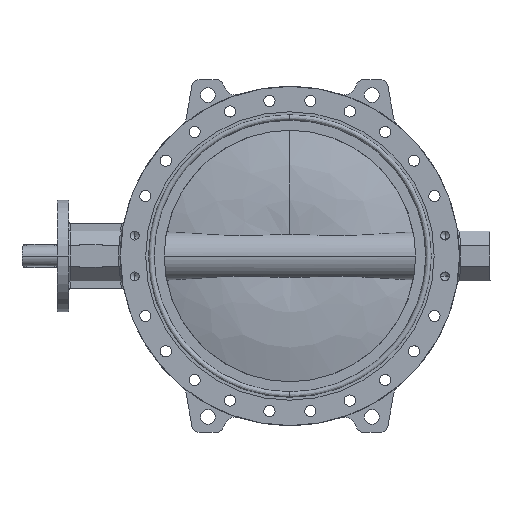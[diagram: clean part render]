
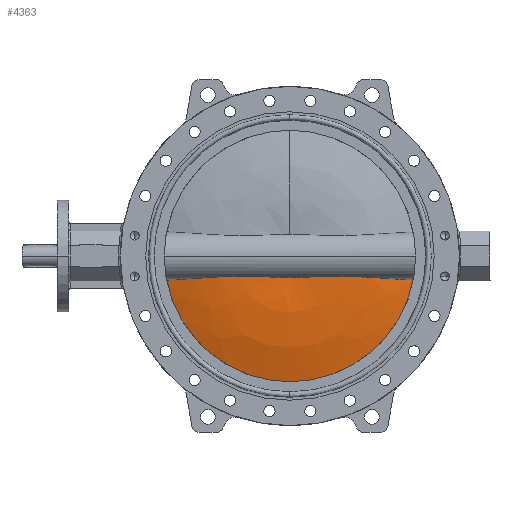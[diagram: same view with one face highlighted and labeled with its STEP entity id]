
A CAD part, left-side view. The second image highlights one B-rep face of the part: STEP entity #4363.
In plain terms, the highlighted free-form (B-spline) face has degree [3, 3] with [4, 4] control points.
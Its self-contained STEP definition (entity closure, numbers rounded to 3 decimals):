
#746 = CARTESIAN_POINT ( 'NONE',  ( 54.613, -112.392, -35.249 ) ) ;
#803 = CARTESIAN_POINT ( 'NONE',  ( 55.577, 75.7, -33.71 ) ) ;
#864 = CARTESIAN_POINT ( 'NONE',  ( 55.295, -174.815, -34.171 ) ) ;
#914 = CARTESIAN_POINT ( 'NONE',  ( 57.647, 2.232, -30.03 ) ) ;
#1086 = CARTESIAN_POINT ( 'NONE',  ( 61.865, 276.618, -20.23 ) ) ;
#1146 = DIRECTION ( 'NONE',  ( 0., 0., -1. ) ) ;
#1151 = CARTESIAN_POINT ( 'NONE',  ( 89.424, 40.497, -29.762 ) ) ;
#2022 = CARTESIAN_POINT ( 'NONE',  ( 56.539, -49.895, -32.071 ) ) ;
#2084 = CARTESIAN_POINT ( 'NONE',  ( 61.937, -277.642, -20.001 ) ) ;
#2131 = CARTESIAN_POINT ( 'NONE',  ( 64.742, -331.232, -5.781 ) ) ;
#2191 = CARTESIAN_POINT ( 'NONE',  ( 55.833, 68.696, -33.285 ) ) ;
#2372 = CARTESIAN_POINT ( 'NONE',  ( 9.724, 54.672, -29.762 ) ) ;
#2433 = CARTESIAN_POINT ( 'NONE',  ( 26.357, 148.195, -42.304 ) ) ;
#2497 = CARTESIAN_POINT ( 'NONE',  ( 242.448, -109.657, -42.304 ) ) ;
#2533 = CARTESIAN_POINT ( 'NONE',  ( 64.37, 317.612, -9.953 ) ) ;
#2554 = CARTESIAN_POINT ( 'NONE',  ( 26.428, -148.183, -42.304 ) ) ;
#3326 = CARTESIAN_POINT ( 'NONE',  ( 60.917, -264.115, -22.824 ) ) ;
#3388 = CARTESIAN_POINT ( 'NONE',  ( 55.76, -70.712, -33.408 ) ) ;
#3441 = CARTESIAN_POINT ( 'NONE',  ( 64.378, -317.919, -9.858 ) ) ;
#3501 = CARTESIAN_POINT ( 'NONE',  ( 54.469, 131.589, -35.47 ) ) ;
#3735 = CARTESIAN_POINT ( 'NONE',  ( 543.62, -245.873, -5.781 ) ) ;
#3771 = CARTESIAN_POINT ( 'NONE',  ( 55.511, 180.215, -33.822 ) ) ;
#3818 = CARTESIAN_POINT ( 'NONE',  ( 64.742, -331.232, -5.781 ) ) ;
#4363 = ADVANCED_FACE ( 'NONE', ( #9302 ), #13857, .T. ) ;
#4601 = CARTESIAN_POINT ( 'NONE',  ( 58.897, -236.888, -27.622 ) ) ;
#4712 = CARTESIAN_POINT ( 'NONE',  ( 55.126, 89.697, -34.443 ) ) ;
#4769 = CARTESIAN_POINT ( 'NONE',  ( 54.64, 110.665, -35.208 ) ) ;
#4821 = CARTESIAN_POINT ( 'NONE',  ( 56.839, -205.942, -31.537 ) ) ;
#4984 = CARTESIAN_POINT ( 'NONE',  ( 57.793, 221.672, -29.799 ) ) ;
#5101 = CARTESIAN_POINT ( 'NONE',  ( 60.827, 262.915, -23.062 ) ) ;
#5114 = CARTESIAN_POINT ( 'NONE',  ( 242.396, 109.772, -42.304 ) ) ;
#5920 = CARTESIAN_POINT ( 'NONE',  ( 56.254, -195.572, -32.567 ) ) ;
#5977 = CARTESIAN_POINT ( 'NONE',  ( 57.613, -8.215, -30.096 ) ) ;
#6033 = CARTESIAN_POINT ( 'NONE',  ( 54.665, 152.463, -35.167 ) ) ;
#6077 = CARTESIAN_POINT ( 'NONE',  ( 54.855, -160.962, -34.873 ) ) ;
#6134 = EDGE_CURVE ( 'NONE', #10485, #14823, #11003, .T. ) ;
#6194 = CARTESIAN_POINT ( 'NONE',  ( 56.54, 200.965, -32.078 ) ) ;
#6211 = CARTESIAN_POINT ( 'NONE',  ( 9.75, -54.667, -29.762 ) ) ;
#7142 = CARTESIAN_POINT ( 'NONE',  ( 57.093, 33.672, -31.074 ) ) ;
#7357 = CARTESIAN_POINT ( 'NONE',  ( 54.471, -133.224, -35.467 ) ) ;
#7479 = CARTESIAN_POINT ( 'NONE',  ( 89.444, -40.454, -29.762 ) ) ;
#7528 = CARTESIAN_POINT ( 'NONE',  ( 0., 0., -5.781 ) ) ;
#7802 = EDGE_CURVE ( 'NONE', #14823, #10485, #15367, .T. ) ;
#8353 = CARTESIAN_POINT ( 'NONE',  ( 54.526, -119.338, -35.383 ) ) ;
#8409 = CARTESIAN_POINT ( 'NONE',  ( 54.696, -154.032, -35.12 ) ) ;
#8515 = CARTESIAN_POINT ( 'NONE',  ( 55.073, -91.541, -34.527 ) ) ;
#8531 = ORIENTED_EDGE ( 'NONE', *, *, #7802, .T. ) ;
#8565 = CARTESIAN_POINT ( 'NONE',  ( 63.667, -304.544, -13.519 ) ) ;
#8680 = DIRECTION ( 'NONE',  ( 0., 1., 0. ) ) ;
#9302 = FACE_OUTER_BOUND ( 'NONE', #10086, .T. ) ;
#9614 = CARTESIAN_POINT ( 'NONE',  ( 54.887, -98.492, -34.821 ) ) ;
#9723 = CARTESIAN_POINT ( 'NONE',  ( 57.563, 12.696, -30.191 ) ) ;
#9781 = CARTESIAN_POINT ( 'NONE',  ( 56.621, 47.678, -31.926 ) ) ;
#9835 = CARTESIAN_POINT ( 'NONE',  ( 56.636, -202.486, -31.898 ) ) ;
#9887 = CARTESIAN_POINT ( 'NONE',  ( 58.79, 235.442, -27.847 ) ) ;
#9937 = CARTESIAN_POINT ( 'NONE',  ( 64.742, 331.232, -5.781 ) ) ;
#9994 = CARTESIAN_POINT ( 'NONE',  ( 55.239, 173.286, -34.262 ) ) ;
#10086 = EDGE_LOOP ( 'NONE', ( #10564, #8531 ) ) ;
#10485 = VERTEX_POINT ( 'NONE', #11924 ) ;
#10564 = ORIENTED_EDGE ( 'NONE', *, *, #6134, .T. ) ;
#10862 = CARTESIAN_POINT ( 'NONE',  ( 57.509, 16.188, -30.294 ) ) ;
#10920 = CARTESIAN_POINT ( 'NONE',  ( 55.509, -77.652, -33.821 ) ) ;
#11003 = CIRCLE ( 'NONE', #11050, 337.5 ) ;
#11024 = CARTESIAN_POINT ( 'NONE',  ( 54.543, 117.645, -35.356 ) ) ;
#11050 = AXIS2_PLACEMENT_3D ( 'NONE', #7528, #1146, #8680 ) ;
#11136 = CARTESIAN_POINT ( 'NONE',  ( 63.636, 303.967, -13.675 ) ) ;
#11248 = CARTESIAN_POINT ( 'NONE',  ( 56.162, 194.054, -32.73 ) ) ;
#11319 = CARTESIAN_POINT ( 'NONE',  ( 43.074, 242.191, -34.185 ) ) ;
#11377 = CARTESIAN_POINT ( 'NONE',  ( 396.139, 179.397, -34.185 ) ) ;
#11924 = CARTESIAN_POINT ( 'NONE',  ( 64.742, 331.232, -5.781 ) ) ;
#12244 = CARTESIAN_POINT ( 'NONE',  ( 57.526, -15.172, -30.261 ) ) ;
#12292 = CARTESIAN_POINT ( 'NONE',  ( 56.275, -56.833, -32.533 ) ) ;
#12467 = CARTESIAN_POINT ( 'NONE',  ( 396.225, -179.208, -34.185 ) ) ;
#12524 = CARTESIAN_POINT ( 'NONE',  ( 43.19, -242.17, -34.185 ) ) ;
#13384 = CARTESIAN_POINT ( 'NONE',  ( 57.299, 26.672, -30.69 ) ) ;
#13440 = CARTESIAN_POINT ( 'NONE',  ( 57.897, -223.188, -29.598 ) ) ;
#13499 = CARTESIAN_POINT ( 'NONE',  ( 54.931, 96.691, -34.751 ) ) ;
#13544 = CARTESIAN_POINT ( 'NONE',  ( 54.492, 138.553, -35.435 ) ) ;
#13599 = CARTESIAN_POINT ( 'NONE',  ( 56.075, -192.114, -32.874 ) ) ;
#13664 = CARTESIAN_POINT ( 'NONE',  ( 59.256, -332.257, -5.781 ) ) ;
#13727 = CARTESIAN_POINT ( 'NONE',  ( 59.098, 332.286, -5.781 ) ) ;
#13817 = CARTESIAN_POINT ( 'NONE',  ( 54.816, 159.41, -34.934 ) ) ;
#13857 =( BOUNDED_SURFACE ( )  B_SPLINE_SURFACE ( 3, 3, ( 
 ( #2372, #1151, #7479, #6211 ),
 ( #2433, #5114, #2497, #2554 ),
 ( #11319, #11377, #12467, #12524 ),
 ( #13727, #14930, #3735, #13664 ) ),
 .UNSPECIFIED., .F., .F., .F. ) 
 B_SPLINE_SURFACE_WITH_KNOTS ( ( 4, 4 ),
 ( 4, 4 ),
 ( 0., 1. ),
 ( 0., 1. ),
 .UNSPECIFIED. ) 
 GEOMETRIC_REPRESENTATION_ITEM ( )  RATIONAL_B_SPLINE_SURFACE ( (
 ( 1., 0.45, 0.45, 1.),
 ( 0.984, 0.443, 0.443, 0.984),
 ( 0.984, 0.443, 0.443, 0.984),
 ( 1., 0.45, 0.45, 1.) ) ) 
 REPRESENTATION_ITEM ( '' )  SURFACE ( )  );
#14653 = CARTESIAN_POINT ( 'NONE',  ( 57.632, 5.718, -30.059 ) ) ;
#14710 = CARTESIAN_POINT ( 'NONE',  ( 57.019, -36.015, -31.21 ) ) ;
#14754 = CARTESIAN_POINT ( 'NONE',  ( 57.638, -4.734, -30.048 ) ) ;
#14811 = CARTESIAN_POINT ( 'NONE',  ( 57.234, -29.072, -30.812 ) ) ;
#14823 = VERTEX_POINT ( 'NONE', #3818 ) ;
#14862 = CARTESIAN_POINT ( 'NONE',  ( 54.504, -140.162, -35.417 ) ) ;
#14930 = CARTESIAN_POINT ( 'NONE',  ( 543.503, 246.133, -5.781 ) ) ;
#15367 = B_SPLINE_CURVE_WITH_KNOTS ( 'NONE', 3,
 ( #2131, #3441, #8565, #2084, #3326, #4601, #13440, #4821, #9835, #5920, #13599, #16031, #864, #6077, #8409, #14862, #7357, #8353, #746, #9614, #8515, #10920, #3388, #12292, #2022, #14710, #14811, #15974, #12244, #5977, #14754, #914, #14653, #9723, #10862, #13384, #7142, #9781, #15918, #2191, #803, #4712, #13499, #4769, #11024, #3501, #13544, #6033, #13817, #9994, #3771, #11248, #6194, #4984, #9887, #5101, #1086, #11136, #2533, #9937 ),
 .UNSPECIFIED., .F., .F.,
 ( 4, 2, 2, 2, 2, 2, 2, 2, 2, 2, 2, 2, 2, 2, 2, 2, 2, 2, 2, 2, 2, 2, 2, 2, 2, 2, 2, 2, 2, 4 ),
 ( 0., 0.042, 0.083, 0.125, 0.135, 0.145, 0.166, 0.187, 0.208, 0.229, 0.249, 0.27, 0.291, 0.312, 0.322, 0.333, 0.343, 0.353, 0.374, 0.395, 0.416, 0.436, 0.457, 0.478, 0.499, 0.52, 0.54, 0.582, 0.623, 0.665 ),
 .UNSPECIFIED. ) ;
#15918 = CARTESIAN_POINT ( 'NONE',  ( 56.356, 54.685, -32.393 ) ) ;
#15974 = CARTESIAN_POINT ( 'NONE',  ( 57.465, -18.648, -30.378 ) ) ;
#16031 = CARTESIAN_POINT ( 'NONE',  ( 55.576, -181.737, -33.716 ) ) ;
